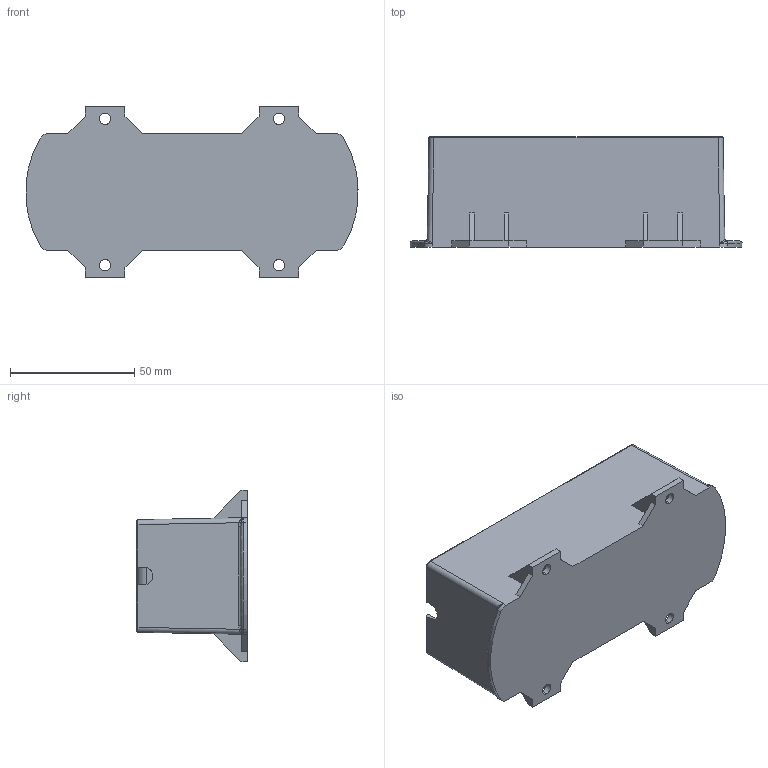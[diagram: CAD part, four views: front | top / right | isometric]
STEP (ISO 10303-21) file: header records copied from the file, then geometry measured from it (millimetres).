
FILE_DESCRIPTION(/* description */ ('Alibre Inc.'),/* implementation_level */ '2;1');
FILE_NAME(/* name */ 'export0',/* time_stamp */ '2014-07-08T14:22:09+02:00',/* author */ (''),/* organization */ (''),/* preprocessor_version */ 'ST-DEVELOPER v14',/* originating_system */ 'Alibre',/* authorisation */ '');
FILE_SCHEMA (('AUTOMOTIVE_DESIGN'));
Length unit declared in the file: millimetre
Bounding box: 133.77 x 44.5 x 69 mm (x, y, z)
Volume: 206941.4 mm3; surface area: 42074.2 mm2
Topology: 67 solids, 67 shells, 2629 faces, 6894 edges, 4420 vertices
Faces by surface type: plane 2090, cylinder 423, bspline 74, cone 22, torus 10, sphere 8, revolution 2
Full cylindrical faces by diameter (mm): 0.5 x2, 1.118 x16, 1.219 x11, 1.3 x2, 1.6 x4, 3.65 x4, 3.7 x4
Entity records: 62558 total; most frequent: CARTESIAN_POINT 12710, ORIENTED_EDGE 10238, DIRECTION 8315, EDGE_CURVE 5119, VECTOR 4310, LINE 4310, VERTEX_POINT 3314, AXIS2_PLACEMENT_3D 2759
